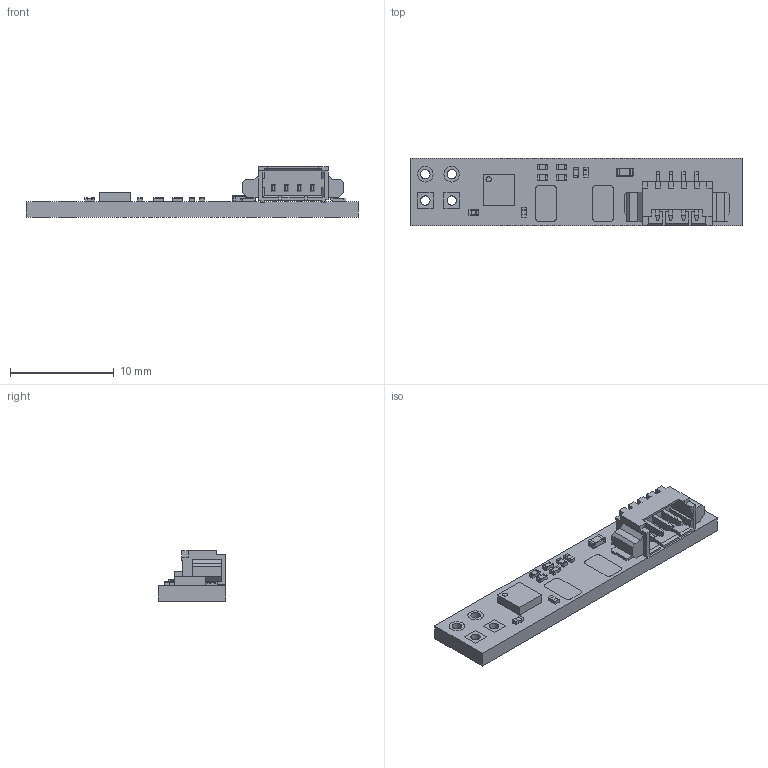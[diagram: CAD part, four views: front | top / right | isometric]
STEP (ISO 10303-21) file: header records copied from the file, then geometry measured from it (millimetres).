
FILE_DESCRIPTION(/* description */ (''),/* implementation_level */ '2;1');
FILE_NAME(/* name */ 'CAN_adapter_v1.0.step',/* time_stamp */ '2026-09-11T12:07:35+03:00',/* author */ (''),/* organization */ (''),/* preprocessor_version */ 'ST-DEVELOPER v20.2',/* originating_system */ 'Autodesk Translation Framework v15.15.0.0',/* authorisation */ '');
FILE_SCHEMA (('AUTOMOTIVE_DESIGN { 1 0 10303 214 3 1 1 }'));
Length unit declared in the file: millimetre
Products named in the file (21): CAN_adapter_v1.0; Board; C4; CAPC1608X___; U1; 6181341888; Cylinder; 6181346880; Extruded; R5; R4; R3; R2; R1; CR1005-0402; P1; 532610471; C3; C2; C1; 0402C
Assembly tree (26 placements, depth 4):
  CAN_adapter_v1.0
    Board
    C4
      CAPC1608X___
    U1
      6181341888
        Cylinder
      6181346880
        Extruded
    R5
      CR1005-0402
    R4
      CR1005-0402
    R3
      CR1005-0402
    R2
      CR1005-0402
    R1
      CR1005-0402
    P1
      532610471
    C3
      0402C
    C2
      0402C
    C1
      0402C
Bounding box: 32 x 6.5 x 4.85 mm (x, y, z)
Volume: 381.1 mm3; surface area: 984.6 mm2
Topology: 40 solids, 40 shells, 915 faces, 2195 edges, 1386 vertices
Faces by surface type: plane 626, cylinder 189, bspline 92, torus 8
Full cylindrical faces by diameter (mm): 0.5 x1, 0.9 x4, 1.1 x8, 1.5 x8
Entity records: 20016 total; most frequent: CARTESIAN_POINT 4603, DIRECTION 2983, ORIENTED_EDGE 2982, EDGE_CURVE 1491, LINE 1171, VECTOR 1171, VERTEX_POINT 954, AXIS2_PLACEMENT_3D 906
